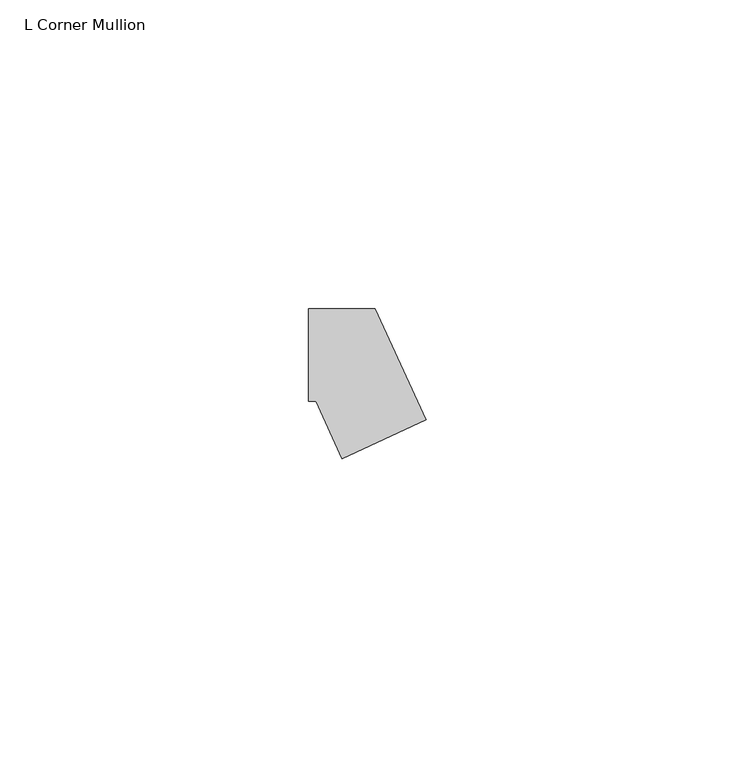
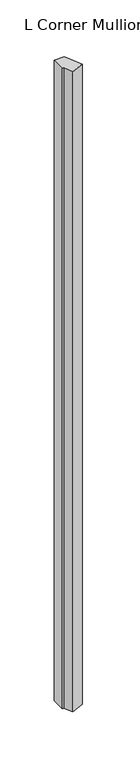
"""IFC4 building model written with IfcOpenShell, lengths in millimetres: member geometry, L Corner Mullion : ARQ_HERR_15X6mm."""

from ifc_helpers import new_model, si_unit, frame, origin, place, context, project, spatial, polyline, outline, extrude, source, transform, mapped, element, save


def l_corner_mullion_acac358a(model_context):
    return source(origin(), model_context, "Body", "SweptSolid", [
        extrude(outline(polyline([(-0.5775282, -16.7605627), (-4.8156946, -7.5), (-6.0, -7.5), (-6.0, 7.5), (4.8156946, 7.5), (13.0619332, -10.5183601), (-0.5775282, -16.7605627)])), frame((0.0, 0.0, -719.6550982), z_axis=(0.0, 0.0, 1.0), x_axis=(1.0, 0.0, 0.0)), (0.0, 0.0, 1.0), 719.6550982),
    ])


if __name__ == "__main__":
    model = new_model("IFC4")
    model_context = context("Model", 3, world=origin())
    ifc_project = project(units=[si_unit("LENGTHUNIT", "METRE", prefix="MILLI")], contexts=[model_context])
    site = spatial("IfcSite", under=ifc_project)
    building = spatial("IfcBuilding", under=site)
    placement = place(None, origin())
    l_corner_mullion_shape = l_corner_mullion_acac358a(model_context)
    element("IfcMember", 1, ObjectType="L Corner Mullion : ARQ_HERR_15X6mm", at=placement, inside=building, context=model_context, shape_type="MappedRepresentation", body=[
        mapped(l_corner_mullion_shape, transform((0.0, 0.0, 0.0), x_axis=(1.0, 0.0, 0.0), y_axis=(0.0, 1.0, 0.0), z_axis=(0.0, 0.0, 1.0))),
    ])
    save(model, "model.ifc")
